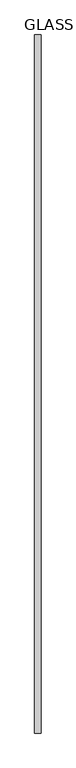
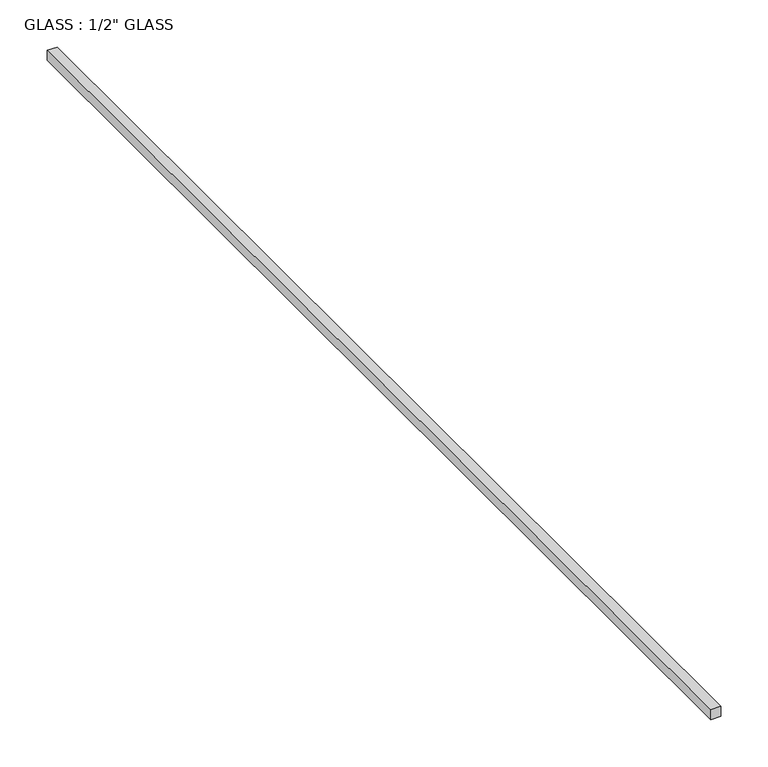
"""IFC4 building model written with IfcOpenShell, lengths in millimetres: proxy geometry."""

from ifc_helpers import new_model, si_unit, frame, origin, place, context, project, spatial, polyline, outline, extrude, source, transform, mapped, element, save


def proxy_ceb16a72(model_context):
    return source(origin(), model_context, "Body", "SweptSolid", [
        extrude(outline(polyline([(-6.35, 0.0), (6.35, 0.0), (6.35, -1411.9217499), (-6.35, -1411.9217499), (-6.35, 0.0)])), frame((0.0, 0.0, -6.35), z_axis=(0.0, 0.0, 1.0), x_axis=(1.0, 0.0, 0.0)), (0.0, 0.0, 1.0), 12.7),
    ])


if __name__ == "__main__":
    model = new_model("IFC4")
    model_context = context("Model", 3, world=origin())
    ifc_project = project(units=[si_unit("LENGTHUNIT", "METRE", prefix="MILLI")], contexts=[model_context])
    site = spatial("IfcSite", under=ifc_project)
    building = spatial("IfcBuilding", under=site)
    placement = place(None, origin())
    proxy_shape = proxy_ceb16a72(model_context)
    element("IfcBuildingElementProxy", 1, Name="GLASS : 1/2\" GLASS", ObjectType="GLASS : 1/2\" GLASS", at=placement, inside=building, context=model_context, shape_type="MappedRepresentation", body=[
        mapped(proxy_shape, transform((0.0, 0.0, 0.0), x_axis=(1.0, 0.0, 0.0), y_axis=(0.0, 1.0, 0.0), z_axis=(0.0, 0.0, 1.0))),
    ])
    save(model, "model.ifc")
